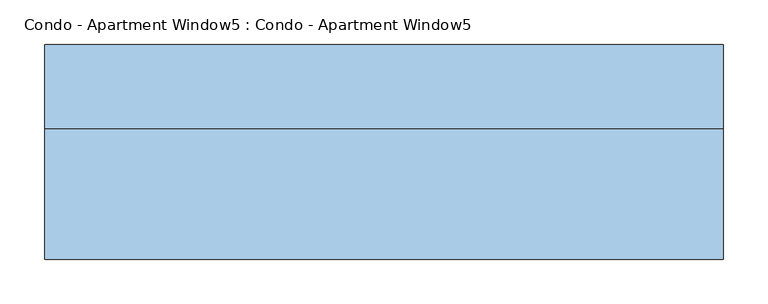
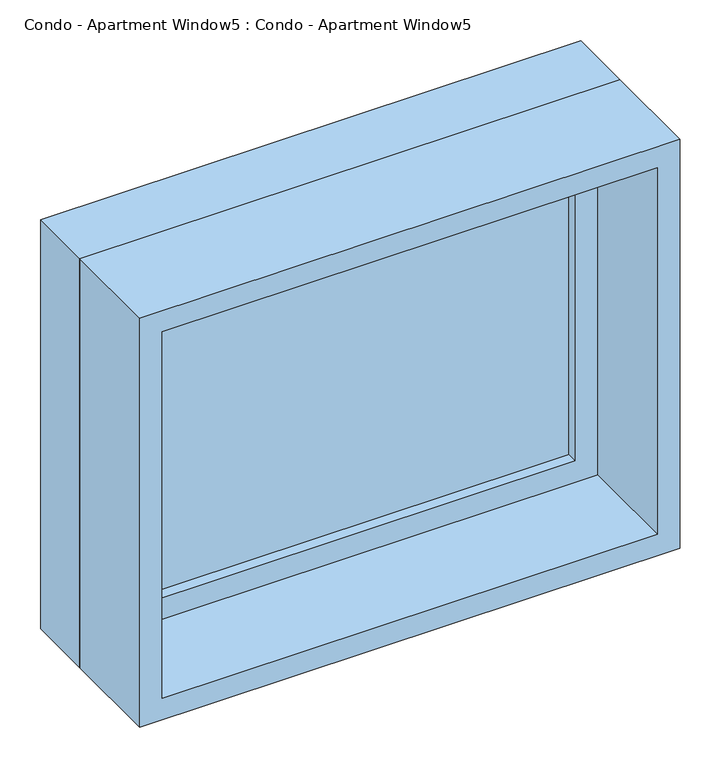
"""IFC4 building model written with IfcOpenShell, lengths in millimetres: window geometry, Condo - Apartment Window5 : Condo - Apartment Window5."""

from ifc_helpers import new_model, si_unit, frame, origin, place, context, project, spatial, polyline, outline, extrude, source, transform, mapped, element, save


def condo_apartment_window5_condo_apartment_window5_b48a20a4(model_context):
    return source(origin(), model_context, "Body", "SweptSolid", [
        extrude(outline(polyline([(279.4, 41.275), (-355.6, 41.275), (-355.6, 53.975), (279.4, 53.975), (279.4, 41.275)])), frame((0.0, 0.0, 1574.8), z_axis=(0.0, 0.0, 1.0), x_axis=(1.0, 0.0, 0.0)), (0.0, 0.0, 1.0), 482.6),
        extrude(outline(polyline([(2101.85, -400.05), (1530.35, -400.05), (1530.35, 323.85), (2101.85, 323.85), (2101.85, -400.05)]), holes=[polyline([(2057.4, -355.6), (2057.4, 279.4), (1574.8, 279.4), (1574.8, -355.6), (2057.4, -355.6)])]), frame((0.0, 25.4, 0.0), z_axis=(0.0, 1.0, 0.0), x_axis=(0.0, 0.0, 1.0)), (0.0, 0.0, 1.0), 44.45),
        extrude(outline(polyline([(2120.9, -419.1), (1511.3, -419.1), (1511.3, 342.9), (2120.9, 342.9), (2120.9, -419.1)]), holes=[polyline([(2089.15, -387.35), (2089.15, 311.15), (1543.05, 311.15), (1543.05, -387.35), (2089.15, -387.35)])]), frame((0.0, -120.65, 0.0), z_axis=(0.0, 1.0, 0.0), x_axis=(0.0, 0.0, 1.0)), (0.0, 0.0, 1.0), 146.05),
        extrude(outline(polyline([(2120.9, 342.9), (2120.9, -419.1), (1511.3, -419.1), (1511.3, 342.9), (2120.9, 342.9)]), holes=[polyline([(2101.85, 323.85), (1530.35, 323.85), (1530.35, -400.05), (2101.85, -400.05), (2101.85, 323.85)])]), frame((0.0, 25.4, 0.0), z_axis=(0.0, 1.0, 0.0), x_axis=(0.0, 0.0, 1.0)), (0.0, 0.0, 1.0), 95.25),
    ])


if __name__ == "__main__":
    model = new_model("IFC4")
    model_context = context("Model", 3, world=origin())
    ifc_project = project(units=[si_unit("LENGTHUNIT", "METRE", prefix="MILLI")], contexts=[model_context])
    site = spatial("IfcSite", under=ifc_project)
    building = spatial("IfcBuilding", under=site)
    placement = place(None, origin())
    condo_apartment_window5_condo_apartment_window5_shape = condo_apartment_window5_condo_apartment_window5_b48a20a4(model_context)
    element("IfcWindow", 1, ObjectType="Condo - Apartment Window5 : Condo - Apartment Window5", at=placement, inside=building, context=model_context, shape_type="MappedRepresentation", body=[
        mapped(condo_apartment_window5_condo_apartment_window5_shape, transform((0.0, 0.0, 0.0), x_axis=(1.0, 0.0, 0.0), y_axis=(0.0, 1.0, 0.0), z_axis=(0.0, 0.0, 1.0))),
    ])
    save(model, "model.ifc")
